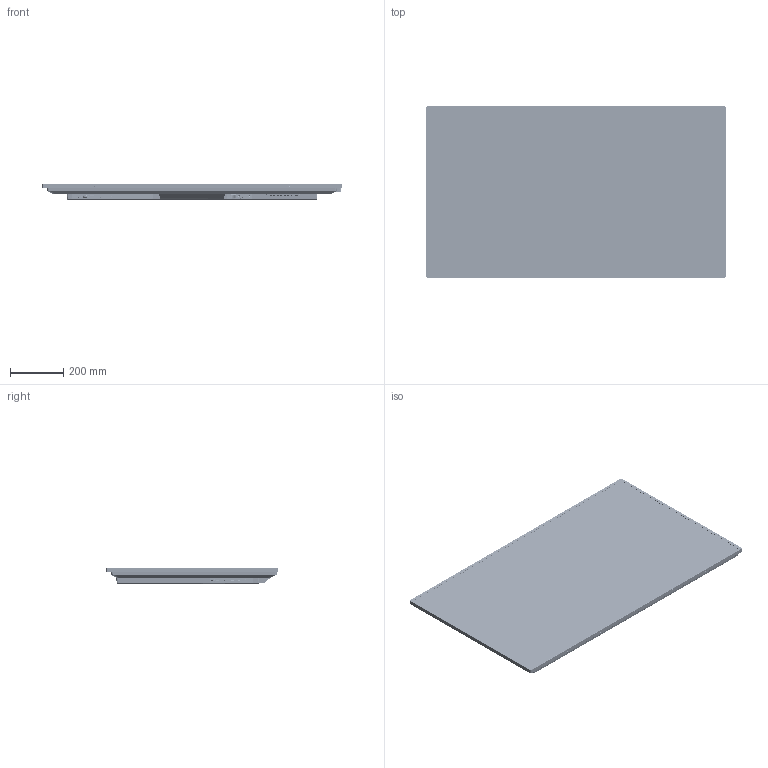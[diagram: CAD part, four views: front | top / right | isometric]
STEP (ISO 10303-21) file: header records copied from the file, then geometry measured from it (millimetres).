
FILE_DESCRIPTION (( 'STEP AP203' ), '1' );
FILE_NAME ('SLM502 Panel 3D 122023.STEP', '2023-12-21T17:13:30', ( '' ), ( '' ), 'SwSTEP 2.0', 'SolidWorks 2023', '' );
FILE_SCHEMA (( 'CONFIG_CONTROL_DESIGN' ));
Products named in the file (1): SLM502 Panel 3D 122023
Bounding box: 1121.64 x 642.21 x 60 mm (x, y, z)
Surface area: 5169389.7 mm2 (no closed solid volume)
Topology: 0 solids, 204 shells, 33224 faces, 92076 edges, 58394 vertices
Faces by surface type: plane 21907, cylinder 7055, bspline 2765, torus 691, cone 663, sphere 143
Entity records: 1301800 total; most frequent: CARTESIAN_POINT 480527, ORIENTED_EDGE 184018, DIRECTION 150418, EDGE_CURVE 92012, VECTOR 66352, LINE 66352, VERTEX_POINT 58393, AXIS2_PLACEMENT_3D 42033
